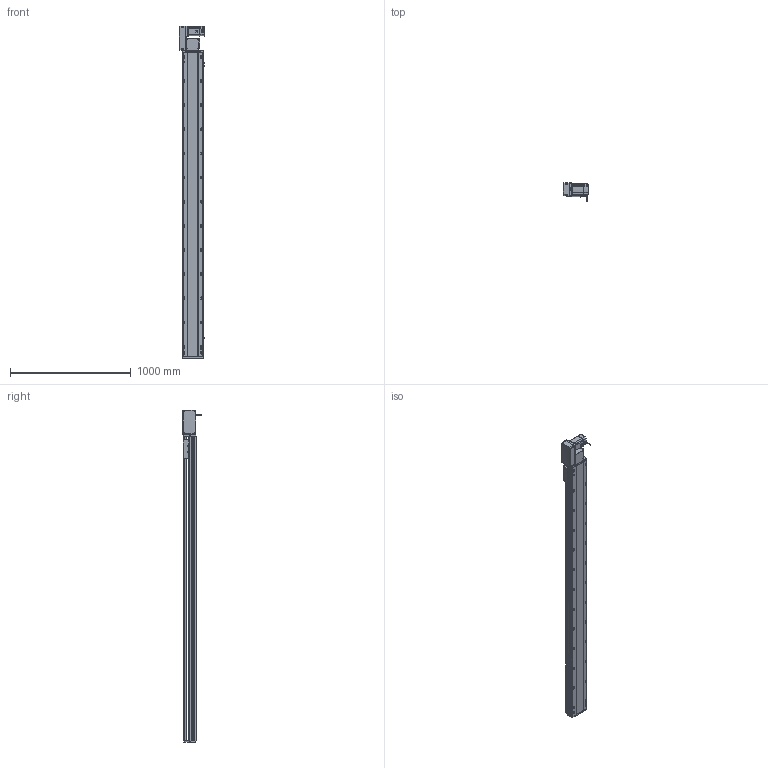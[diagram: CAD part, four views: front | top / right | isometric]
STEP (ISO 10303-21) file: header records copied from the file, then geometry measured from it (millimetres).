
FILE_DESCRIPTION (( 'STEP AP214' ), '1' );
FILE_NAME ('RTB17S-XX-2250-L-M75-C4.STEP', '2025-12-12T00:20:21', ( '' ), ( '' ), 'SwSTEP 2.0', 'SolidWorks 2018', '' );
FILE_SCHEMA (( 'AUTOMOTIVE_DESIGN' ));
Length unit declared in the file: millimetre
Products named in the file (15): RTB17S-L-004-賑釱^RTB17S-賑釱_RTB17S-XX-XX-L-M75-C4; EE672^RTB17S-XX-XX-L-M75-C4; RTB17-R-011菁釱^RTB17S-XX-XX-L-M75-C4; RMP17S-L-014-T20-P75--々湍釱^RTB17S-L-々湍釱蚾饜-750W_RTB17S-XX-XX-L-M75-C4; RTB17S-L-々湍釱蚾饜-750W^RTB17S-XX-XX-L-M75-C4; RTB22S-GY-005P^RTB17S-L-々湍釱蚾饜-750W_RTB17S-XX-XX-L-M75-C4; RTB22S-GY-008-M75--萇儂啣^RTB17S-L-々湍釱蚾饜-750W_RTB17S-XX-XX-L-M75-C4; RTB17S-XX-2250-L-M75-C4; RTB22S-GY-017P^RTB17S-L-々湍釱蚾饜-750W_RTB17S-XX-XX-L-M75-C4; RTB17S-L-007奻裔^RTB17S-XX-XX-L-M75-C4; RTB17S-賑釱^RTB17S-XX-XX-L-M75-C4; RTH13-BL-012覜茼え俋离^RTB17S-賑釱_RTB17S-XX-XX-L-M75-C4; RTB22S-GY-018P^RTB17S-L-々湍釱蚾饜-750W_RTB17S-XX-XX-L-M75-C4; 750W萇儂^RTB17S-XX-XX-L-M75-C4; RTB17S-L-001-耜醱啣^RTB17S-XX-XX-L-M75-C4
Assembly tree (17 placements, depth 3):
  RTB17S-XX-2250-L-M75-C4
    RTB17-R-011菁釱^RTB17S-XX-XX-L-M75-C4
    EE672^RTB17S-XX-XX-L-M75-C4  x3
    RTB17S-L-001-耜醱啣^RTB17S-XX-XX-L-M75-C4
    RTB17S-賑釱^RTB17S-XX-XX-L-M75-C4
      RTB17S-L-004-賑釱^RTB17S-賑釱_RTB17S-XX-XX-L-M75-C4
      RTH13-BL-012覜茼え俋离^RTB17S-賑釱_RTB17S-XX-XX-L-M75-C4
    RTB17S-L-007奻裔^RTB17S-XX-XX-L-M75-C4
    750W萇儂^RTB17S-XX-XX-L-M75-C4
    RTB17S-L-々湍釱蚾饜-750W^RTB17S-XX-XX-L-M75-C4
      RMP17S-L-014-T20-P75--々湍釱^RTB17S-L-々湍釱蚾饜-750W_RTB17S-XX-XX-L-M75-C4
      RTB22S-GY-005P^RTB17S-L-々湍釱蚾饜-750W_RTB17S-XX-XX-L-M75-C4
      RTB22S-GY-017P^RTB17S-L-々湍釱蚾饜-750W_RTB17S-XX-XX-L-M75-C4  x2
      RTB22S-GY-008-M75--萇儂啣^RTB17S-L-々湍釱蚾饜-750W_RTB17S-XX-XX-L-M75-C4
      RTB22S-GY-018P^RTB17S-L-々湍釱蚾饜-750W_RTB17S-XX-XX-L-M75-C4
Bounding box: 210.4 x 152.7 x 2749 mm (x, y, z)
Volume: 20009845.4 mm3; surface area: 3608129.2 mm2
Topology: 17 solids, 17 shells, 2201 faces, 6160 edges, 3986 vertices
Faces by surface type: plane 984, cylinder 801, bspline 294, cone 110, sphere 8, torus 4
Entity records: 63478 total; most frequent: CARTESIAN_POINT 18824, ORIENTED_EDGE 9164, DIRECTION 8492, EDGE_CURVE 4582, AXIS2_PLACEMENT_3D 3006, VERTEX_POINT 2990, LINE 2480, VECTOR 2480
